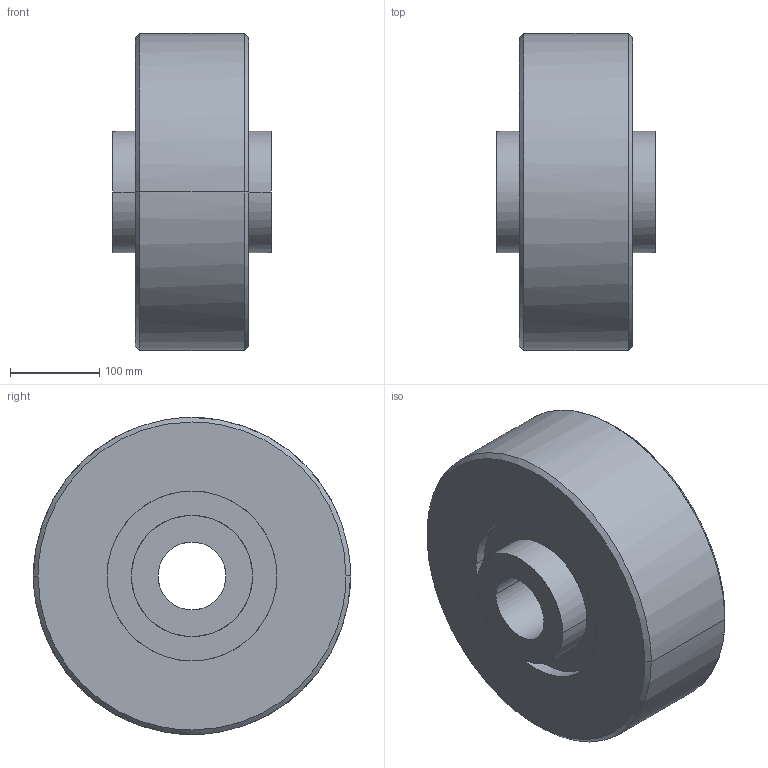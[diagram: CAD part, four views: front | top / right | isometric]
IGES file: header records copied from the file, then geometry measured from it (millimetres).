
Global section: native system: Kubotek KeyCreator; preprocessor: KCM Version 1.1.1442.0; author: KeyCreator User; organization: Self; date: 20170712.055902; units: inch
Bounding box: 177.8 x 355.6 x 355.6 mm (x, y, z)
Surface area: 415120.6 mm2 (no closed solid volume)
Topology: 0 solids, 0 shells, 22 faces, 144 edges, 144 vertices
Faces by surface type: bspline 22
